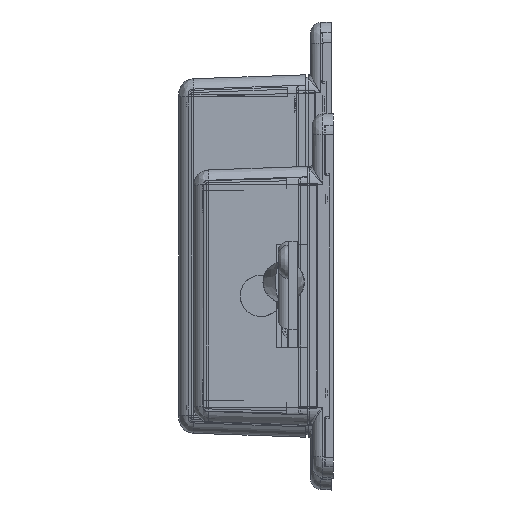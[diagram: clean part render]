
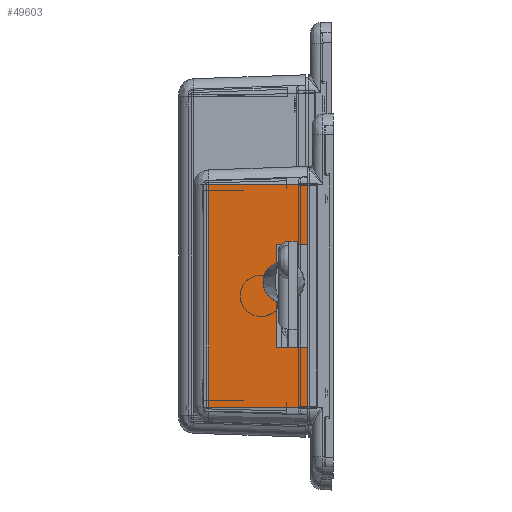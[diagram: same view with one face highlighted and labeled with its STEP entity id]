
A CAD part, left-side view. The second image highlights one B-rep face of the part: STEP entity #49603.
In plain terms, the highlighted planar face has unit normal (-0.999, 0.035, 0) as drawn and (-0.999, 0, 0.035) by its records, which use the part's own axes.
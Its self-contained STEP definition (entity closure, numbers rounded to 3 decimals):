
#4089=PLANE('',#53604);
#6611=FACE_OUTER_BOUND('',#9531,.T.);
#9531=EDGE_LOOP('',(#42765,#42766,#42767,#42768,#42769,#42770,#42771,#42772));
#14118=LINE('',#84287,#19399);
#14121=LINE('',#84293,#19402);
#14125=LINE('',#84300,#19406);
#14126=LINE('',#84303,#19407);
#14127=LINE('',#84305,#19408);
#14128=LINE('',#84307,#19409);
#14129=LINE('',#84309,#19410);
#14130=LINE('',#84310,#19411);
#19399=VECTOR('',#63749,10.);
#19402=VECTOR('',#63754,10.);
#19406=VECTOR('',#63760,10.);
#19407=VECTOR('',#63763,43.);
#19408=VECTOR('',#63764,19.116);
#19409=VECTOR('',#63765,43.);
#19410=VECTOR('',#63766,19.116);
#19411=VECTOR('',#63767,43.);
#24487=VERTEX_POINT('',#84284);
#24488=VERTEX_POINT('',#84286);
#24490=VERTEX_POINT('',#84292);
#24492=VERTEX_POINT('',#84298);
#24493=VERTEX_POINT('',#84302);
#24494=VERTEX_POINT('',#84304);
#24495=VERTEX_POINT('',#84306);
#24496=VERTEX_POINT('',#84308);
#30809=EDGE_CURVE('',#24488,#24487,#14118,.T.);
#30812=EDGE_CURVE('',#24490,#24488,#14121,.T.);
#30816=EDGE_CURVE('',#24487,#24492,#14125,.T.);
#30817=EDGE_CURVE('',#24492,#24493,#14126,.T.);
#30818=EDGE_CURVE('',#24493,#24494,#14127,.T.);
#30819=EDGE_CURVE('',#24495,#24494,#14128,.T.);
#30820=EDGE_CURVE('',#24496,#24495,#14129,.T.);
#30821=EDGE_CURVE('',#24496,#24490,#14130,.T.);
#42765=ORIENTED_EDGE('',*,*,#30816,.T.);
#42766=ORIENTED_EDGE('',*,*,#30817,.T.);
#42767=ORIENTED_EDGE('',*,*,#30818,.T.);
#42768=ORIENTED_EDGE('',*,*,#30819,.F.);
#42769=ORIENTED_EDGE('',*,*,#30820,.F.);
#42770=ORIENTED_EDGE('',*,*,#30821,.T.);
#42771=ORIENTED_EDGE('',*,*,#30812,.T.);
#42772=ORIENTED_EDGE('',*,*,#30809,.T.);
#49603=ADVANCED_FACE('',(#6611),#4089,.T.);
#53604=AXIS2_PLACEMENT_3D('',#84301,#63761,#63762);
#63749=DIRECTION('',(0.,-1.,0.));
#63754=DIRECTION('',(0.035,0.,0.999));
#63760=DIRECTION('',(-0.035,0.,-0.999));
#63761=DIRECTION('center_axis',(-0.999,0.,0.035));
#63762=DIRECTION('ref_axis',(0.,-1.,0.));
#63763=DIRECTION('',(0.,-1.,0.));
#63764=DIRECTION('',(0.035,0.,0.999));
#63765=DIRECTION('',(0.,-1.,0.));
#63766=DIRECTION('',(0.035,0.,0.999));
#63767=DIRECTION('',(0.,-1.,0.));
#84284=CARTESIAN_POINT('',(-24.79,-10.,6.));
#84286=CARTESIAN_POINT('',(-24.79,10.,6.));
#84287=CARTESIAN_POINT('',(-24.79,-5.75,6.));
#84292=CARTESIAN_POINT('',(-25.,10.,0.));
#84293=CARTESIAN_POINT('',(-24.913,10.,2.5));
#84298=CARTESIAN_POINT('',(-25.,-10.,0.));
#84300=CARTESIAN_POINT('',(-24.911,-10.,2.535));
#84301=CARTESIAN_POINT('Origin',(-25.,-21.5,0.));
#84302=CARTESIAN_POINT('',(-25.,-21.5,0.));
#84303=CARTESIAN_POINT('',(-25.,21.5,0.));
#84304=CARTESIAN_POINT('',(-24.333,-21.5,19.105));
#84305=CARTESIAN_POINT('',(-25.,-21.5,0.));
#84306=CARTESIAN_POINT('',(-24.333,21.5,19.105));
#84307=CARTESIAN_POINT('',(-24.333,21.5,19.105));
#84308=CARTESIAN_POINT('',(-25.,21.5,0.));
#84309=CARTESIAN_POINT('',(-25.,21.5,0.));
#84310=CARTESIAN_POINT('',(-25.,21.5,0.));
